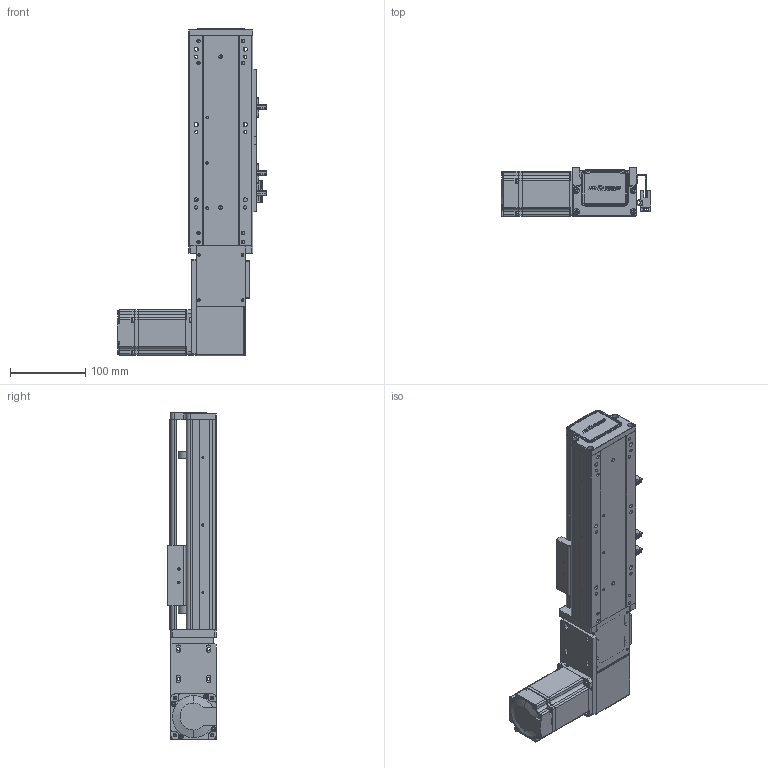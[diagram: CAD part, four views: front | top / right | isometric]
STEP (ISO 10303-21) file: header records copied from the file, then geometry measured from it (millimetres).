
FILE_DESCRIPTION (( 'STEP AP203' ), '1' );
FILE_NAME ('RY80-T-300-LK.SLDASM_100.step', '2021-03-01T01:57:55', ( '盈信电脑' ), ( '东莞市道滘镇水果街19号' ), 'SwSTEP 2.0', 'SolidWorks 2012', '' );
FILE_SCHEMA (( 'CONFIG_CONTROL_DESIGN' ));
Products named in the file (19): RY80-T-300-LK.SLDASM_100; RY80-T-M4蹟翐; RY80-T萇儂假蚾啣; RY80-T肮祭謫俋欶; 1; 侂狟200W萇儂; 滅袉蝶18-10; RY80-T粣創揤踡輸; RY80-T翋肮祭謫裔啣; RY80-T肮祭湍揤輸2; 覜茼ん672; RY80俋离覜茼え; RY80-T肮祭湍揤輸1; RY80-T-翋肮祭謫釱; RY80-T肮祭謫臏賑輸; RY80-T綴裔啣; 672嫖萇羲壽假蚾釱; RY80-T-300-LK倰第奻裔啣_100; RY80-T-300-LK倰第菁釱_100
Assembly tree (24 placements, depth 3):
  RY80-T-300-LK.SLDASM_100
    RY80-T-300-LK倰第菁釱_100
    RY80-T肮祭謫臏賑輸
    RY80-T-300-LK倰第奻裔啣_100
    RY80-T綴裔啣
    672嫖萇羲壽假蚾釱  x2
    覜茼ん672  x3
    RY80俋离覜茼え
    RY80-T-翋肮祭謫釱
    RY80-T肮祭湍揤輸1
    RY80-T肮祭湍揤輸2
    RY80-T粣創揤踡輸
    RY80-T翋肮祭謫裔啣  x2
    滅袉蝶18-10  x2
    侂狟200W萇儂
      1
    RY80-T肮祭謫俋欶
    RY80-T萇儂假蚾啣
    RY80-T-M4蹟翐  x2
Bounding box: 198.7 x 65 x 435 mm (x, y, z)
Volume: 1015124 mm3; surface area: 383819.2 mm2
Topology: 23 solids, 23 shells, 2283 faces, 6249 edges, 4057 vertices
Faces by surface type: plane 1287, cylinder 796, cone 144, bspline 56
Entity records: 69705 total; most frequent: CARTESIAN_POINT 15845, ORIENTED_EDGE 10942, DIRECTION 10448, EDGE_CURVE 5471, VERTEX_POINT 3598, VECTOR 3542, LINE 3542, AXIS2_PLACEMENT_3D 3453
